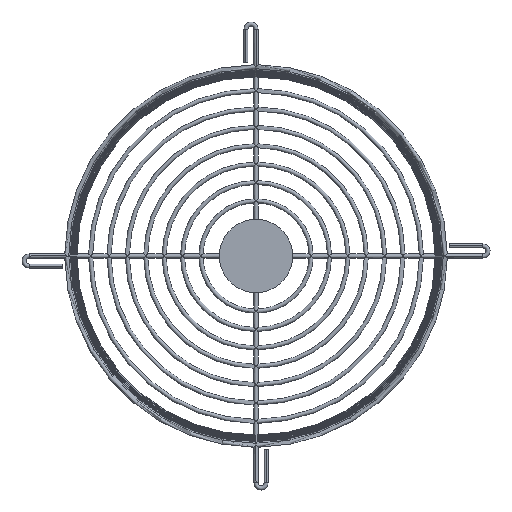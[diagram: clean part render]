
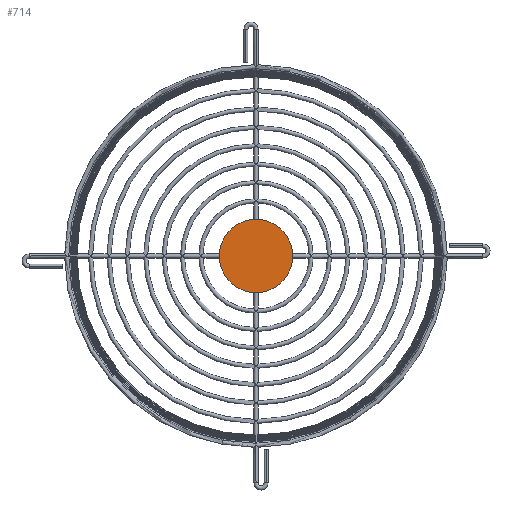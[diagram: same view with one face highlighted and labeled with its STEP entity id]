
A CAD part, front view. The second image highlights one B-rep face of the part: STEP entity #714.
In plain terms, the highlighted planar face has unit normal (0, -1, 0).
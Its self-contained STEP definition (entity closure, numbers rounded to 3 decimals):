
#714=ADVANCED_FACE('',(#1426),#1427,.T.);
#1426=FACE_OUTER_BOUND('',#2131,.T.);
#1427=PLANE('',#2132);
#2131=EDGE_LOOP('',(#5443,#5444));
#2132=AXIS2_PLACEMENT_3D('',#5445,#5446,#5447);
#5443=ORIENTED_EDGE('',*,*,#6167,.T.);
#5444=ORIENTED_EDGE('',*,*,#6894,.T.);
#5445=CARTESIAN_POINT('',(0.0,165.8,0.0));
#5446=DIRECTION('',(0.0,-1.0,0.0));
#5447=DIRECTION('',(1.0,0.0,0.0));
#6167=EDGE_CURVE('',#8176,#8174,#8177,.T.);
#6894=EDGE_CURVE('',#8174,#8176,#9074,.T.);
#8174=VERTEX_POINT('',#17660);
#8176=VERTEX_POINT('',#17663);
#8177=CIRCLE('',#17664,36.5);
#9074=CIRCLE('',#24812,36.5);
#17660=CARTESIAN_POINT('',(-36.5,165.8,0.));
#17663=CARTESIAN_POINT('',(36.5,165.8,0.0));
#17664=AXIS2_PLACEMENT_3D('',#25550,#25551,#25552);
#24812=AXIS2_PLACEMENT_3D('',#26088,#26089,#26090);
#25550=CARTESIAN_POINT('',(0.0,165.8,0.0));
#25551=DIRECTION('',(0.0,-1.0,0.0));
#25552=DIRECTION('',(1.0,0.0,0.0));
#26088=CARTESIAN_POINT('',(0.0,165.8,0.0));
#26089=DIRECTION('',(0.0,-1.0,0.0));
#26090=DIRECTION('',(1.0,0.0,0.0));
